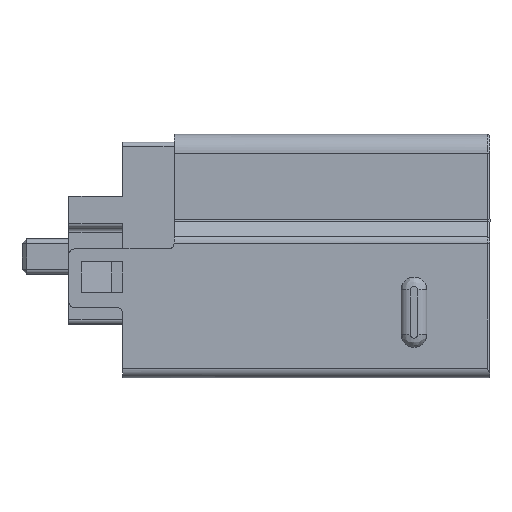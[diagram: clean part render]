
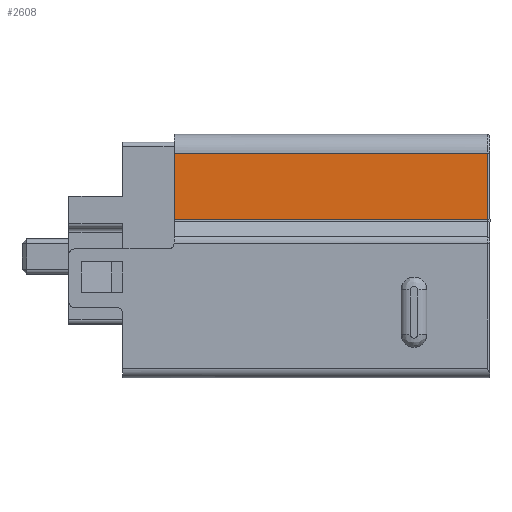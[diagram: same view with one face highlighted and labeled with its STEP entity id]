
A CAD part, left-side view. The second image highlights one B-rep face of the part: STEP entity #2608.
In plain terms, the highlighted planar face has unit normal (-1, 0, 0).
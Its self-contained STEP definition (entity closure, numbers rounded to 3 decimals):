
#154 = VERTEX_POINT ( 'NONE', #17795 ) ;
#461 = LINE ( 'NONE', #8653, #11876 ) ;
#2608 = ADVANCED_FACE ( 'NONE', ( #34143 ), #25700, .F. ) ;
#4340 = DIRECTION ( 'NONE',  ( 0., 0., 1. ) ) ;
#5682 = DIRECTION ( 'NONE',  ( 0., 0., 1. ) ) ;
#6177 = AXIS2_PLACEMENT_3D ( 'NONE', #18065, #9592, #14243 ) ;
#6871 = ORIENTED_EDGE ( 'NONE', *, *, #11776, .T. ) ;
#8653 = CARTESIAN_POINT ( 'NONE',  ( -3.2, 13.5, 4.4 ) ) ;
#9278 = EDGE_LOOP ( 'NONE', ( #6871, #48076, #15938, #24845 ) ) ;
#9592 = DIRECTION ( 'NONE',  ( 1., 0., 0. ) ) ;
#11776 = EDGE_CURVE ( 'NONE', #154, #27349, #28266, .T. ) ;
#11876 = VECTOR ( 'NONE', #20936, 1000. ) ;
#12603 = VECTOR ( 'NONE', #4340, 1000. ) ;
#13939 = CARTESIAN_POINT ( 'NONE',  ( -3.2, 0.1, 4.4 ) ) ;
#14243 = DIRECTION ( 'NONE',  ( 0., 1., 0. ) ) ;
#15938 = ORIENTED_EDGE ( 'NONE', *, *, #17394, .F. ) ;
#16880 = CARTESIAN_POINT ( 'NONE',  ( -3.2, 13.5, 1.541 ) ) ;
#17394 = EDGE_CURVE ( 'NONE', #22231, #31441, #461, .T. ) ;
#17795 = CARTESIAN_POINT ( 'NONE',  ( -3.2, 13.5, 1.541 ) ) ;
#18065 = CARTESIAN_POINT ( 'NONE',  ( -3.2, 6.8, 2.971 ) ) ;
#18514 = VECTOR ( 'NONE', #5682, 1000. ) ;
#19283 = CARTESIAN_POINT ( 'NONE',  ( -3.2, 13.5, 1.541 ) ) ;
#20072 = CARTESIAN_POINT ( 'NONE',  ( -3.2, 13.5, 4.4 ) ) ;
#20936 = DIRECTION ( 'NONE',  ( 0., -1., 0. ) ) ;
#22231 = VERTEX_POINT ( 'NONE', #20072 ) ;
#23918 = EDGE_CURVE ( 'NONE', #154, #22231, #49895, .T. ) ;
#24845 = ORIENTED_EDGE ( 'NONE', *, *, #23918, .F. ) ;
#25700 = PLANE ( 'NONE',  #6177 ) ;
#27349 = VERTEX_POINT ( 'NONE', #28460 ) ;
#28266 = LINE ( 'NONE', #19283, #41287 ) ;
#28460 = CARTESIAN_POINT ( 'NONE',  ( -3.2, 0.1, 1.541 ) ) ;
#31441 = VERTEX_POINT ( 'NONE', #13939 ) ;
#32079 = DIRECTION ( 'NONE',  ( 0., -1., 0. ) ) ;
#34143 = FACE_OUTER_BOUND ( 'NONE', #9278, .T. ) ;
#41287 = VECTOR ( 'NONE', #32079, 1000. ) ;
#41720 = LINE ( 'NONE', #46070, #12603 ) ;
#46070 = CARTESIAN_POINT ( 'NONE',  ( -3.2, 0.1, 1.541 ) ) ;
#48001 = EDGE_CURVE ( 'NONE', #27349, #31441, #41720, .T. ) ;
#48076 = ORIENTED_EDGE ( 'NONE', *, *, #48001, .T. ) ;
#49895 = LINE ( 'NONE', #16880, #18514 ) ;
